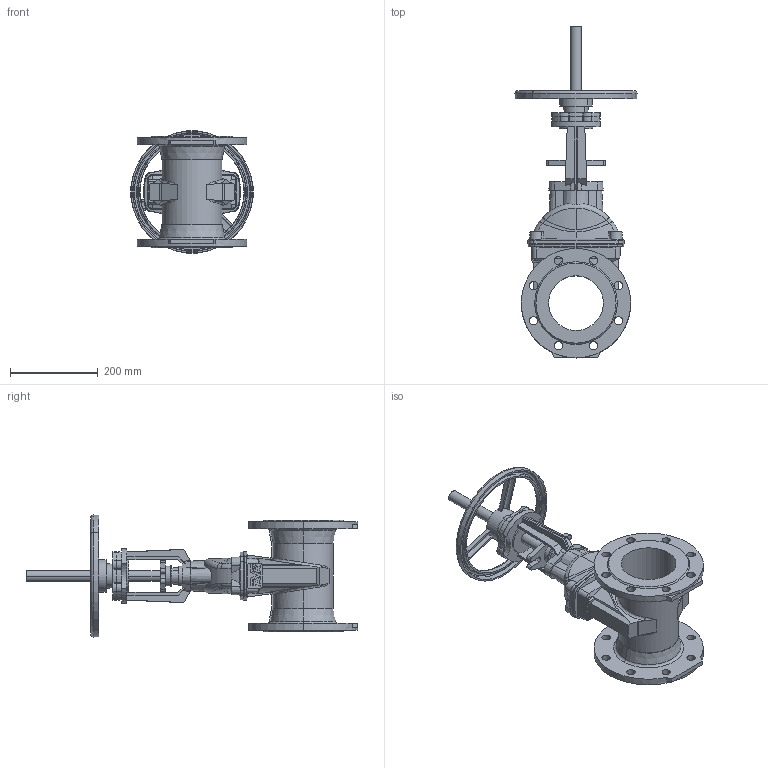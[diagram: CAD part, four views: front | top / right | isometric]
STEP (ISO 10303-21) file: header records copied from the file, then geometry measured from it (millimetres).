
FILE_DESCRIPTION (( 'STEP AP203' ), '1' );
FILE_NAME ('O_21_34_DN125_41XXXXX open_REV01.step', '2022-02-15T07:20:52', ( '' ), ( '' ), 'SwSTEP 2.0', 'SolidWorks 2019', '' );
FILE_SCHEMA (( 'CONFIG_CONTROL_DESIGN' ));
Length unit declared in the file: millimetre
Products named in the file (1): O_21_34_DN125_41XXXXX open_REV01
Bounding box: 278.92 x 758.37 x 278.92 mm (x, y, z)
Volume: 5825152.2 mm3; surface area: 715729.7 mm2
Topology: 1 solids, 1 shells, 572 faces, 1549 edges, 995 vertices
Faces by surface type: plane 227, cylinder 117, cone 111, bspline 71, torus 42, sphere 4
Entity records: 22710 total; most frequent: CARTESIAN_POINT 8858, ORIENTED_EDGE 3090, DIRECTION 2673, EDGE_CURVE 1545, AXIS2_PLACEMENT_3D 995, VERTEX_POINT 995, VECTOR 683, LINE 683
